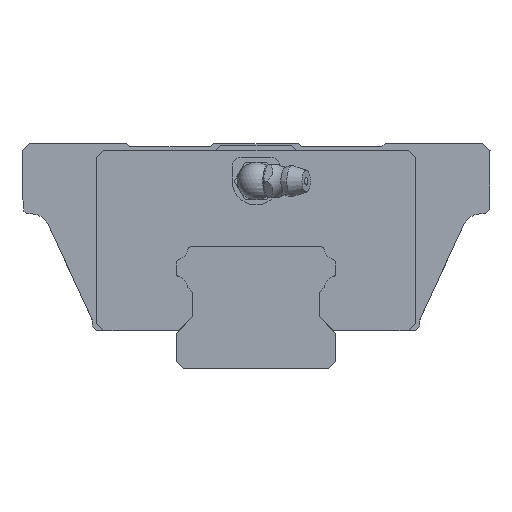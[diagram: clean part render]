
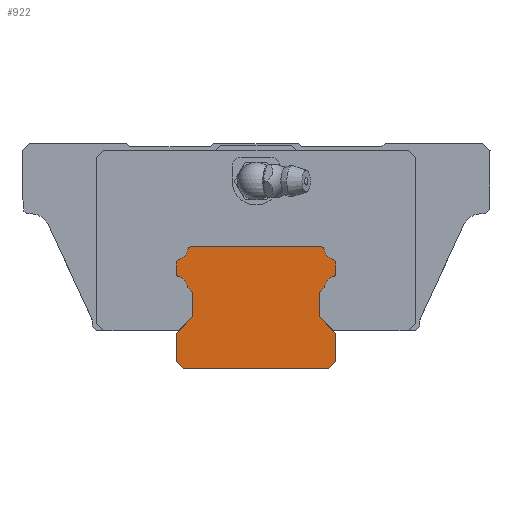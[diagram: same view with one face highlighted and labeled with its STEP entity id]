
A CAD part, front view. The second image highlights one B-rep face of the part: STEP entity #922.
In plain terms, the highlighted planar face has unit normal (0, -1, 0).
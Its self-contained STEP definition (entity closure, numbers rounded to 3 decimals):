
#554=PLANE('',#4600);
#699=CIRCLE('',#4558,0.8);
#701=CIRCLE('',#4561,2.6);
#703=CIRCLE('',#4574,2.6);
#705=CIRCLE('',#4577,0.8);
#707=CIRCLE('',#4581,0.8);
#709=CIRCLE('',#4584,2.6);
#711=CIRCLE('',#4587,0.8);
#713=CIRCLE('',#4590,0.8);
#715=CIRCLE('',#4593,2.6);
#717=CIRCLE('',#4596,0.8);
#922=ADVANCED_FACE('',(#1168),#554,.T.);
#1168=FACE_OUTER_BOUND('',#1437,.T.);
#1437=EDGE_LOOP('',(#2431,#2432,#2433,#2434,#2435,#2436,#2437,#2438,#2439,
#2440,#2441,#2442,#2443,#2444,#2445,#2446,#2447,#2448,#2449,#2450,#2451,
#2452,#2453,#2454));
#2431=ORIENTED_EDGE('',*,*,#3411,.T.);
#2432=ORIENTED_EDGE('',*,*,#3415,.T.);
#2433=ORIENTED_EDGE('',*,*,#3418,.T.);
#2434=ORIENTED_EDGE('',*,*,#3421,.T.);
#2435=ORIENTED_EDGE('',*,*,#3424,.T.);
#2436=ORIENTED_EDGE('',*,*,#3427,.T.);
#2437=ORIENTED_EDGE('',*,*,#3430,.T.);
#2438=ORIENTED_EDGE('',*,*,#3433,.T.);
#2439=ORIENTED_EDGE('',*,*,#3389,.T.);
#2440=ORIENTED_EDGE('',*,*,#3435,.T.);
#2441=ORIENTED_EDGE('',*,*,#3438,.T.);
#2442=ORIENTED_EDGE('',*,*,#3441,.T.);
#2443=ORIENTED_EDGE('',*,*,#3444,.T.);
#2444=ORIENTED_EDGE('',*,*,#3447,.T.);
#2445=ORIENTED_EDGE('',*,*,#3450,.T.);
#2446=ORIENTED_EDGE('',*,*,#3453,.T.);
#2447=ORIENTED_EDGE('',*,*,#3456,.T.);
#2448=ORIENTED_EDGE('',*,*,#3459,.T.);
#2449=ORIENTED_EDGE('',*,*,#3462,.T.);
#2450=ORIENTED_EDGE('',*,*,#3465,.T.);
#2451=ORIENTED_EDGE('',*,*,#3405,.T.);
#2452=ORIENTED_EDGE('',*,*,#3467,.T.);
#2453=ORIENTED_EDGE('',*,*,#3470,.T.);
#2454=ORIENTED_EDGE('',*,*,#3473,.T.);
#2889=VERTEX_POINT('',#6696);
#2890=VERTEX_POINT('',#6697);
#2905=VERTEX_POINT('',#6733);
#2906=VERTEX_POINT('',#6734);
#2911=VERTEX_POINT('',#6746);
#2912=VERTEX_POINT('',#6747);
#2915=VERTEX_POINT('',#6755);
#2917=VERTEX_POINT('',#6761);
#2919=VERTEX_POINT('',#6767);
#2921=VERTEX_POINT('',#6773);
#2923=VERTEX_POINT('',#6779);
#2925=VERTEX_POINT('',#6785);
#2927=VERTEX_POINT('',#6794);
#2929=VERTEX_POINT('',#6800);
#2931=VERTEX_POINT('',#6806);
#2933=VERTEX_POINT('',#6812);
#2935=VERTEX_POINT('',#6818);
#2937=VERTEX_POINT('',#6824);
#2939=VERTEX_POINT('',#6830);
#2941=VERTEX_POINT('',#6836);
#2943=VERTEX_POINT('',#6842);
#2945=VERTEX_POINT('',#6848);
#2947=VERTEX_POINT('',#6857);
#2949=VERTEX_POINT('',#6863);
#3389=EDGE_CURVE('',#2889,#2890,#3822,.T.);
#3405=EDGE_CURVE('',#2905,#2906,#3826,.T.);
#3411=EDGE_CURVE('',#2911,#2912,#3830,.T.);
#3415=EDGE_CURVE('',#2912,#2915,#699,.T.);
#3418=EDGE_CURVE('',#2915,#2917,#701,.T.);
#3421=EDGE_CURVE('',#2917,#2919,#3836,.T.);
#3424=EDGE_CURVE('',#2919,#2921,#3839,.T.);
#3427=EDGE_CURVE('',#2921,#2923,#3842,.T.);
#3430=EDGE_CURVE('',#2923,#2925,#3845,.T.);
#3433=EDGE_CURVE('',#2925,#2889,#3848,.T.);
#3435=EDGE_CURVE('',#2890,#2927,#3850,.T.);
#3438=EDGE_CURVE('',#2927,#2929,#3853,.T.);
#3441=EDGE_CURVE('',#2929,#2931,#3856,.T.);
#3444=EDGE_CURVE('',#2931,#2933,#3859,.T.);
#3447=EDGE_CURVE('',#2933,#2935,#3862,.T.);
#3450=EDGE_CURVE('',#2935,#2937,#703,.T.);
#3453=EDGE_CURVE('',#2937,#2939,#705,.T.);
#3456=EDGE_CURVE('',#2939,#2941,#3867,.T.);
#3459=EDGE_CURVE('',#2941,#2943,#707,.T.);
#3462=EDGE_CURVE('',#2943,#2945,#709,.T.);
#3465=EDGE_CURVE('',#2945,#2905,#711,.T.);
#3467=EDGE_CURVE('',#2906,#2947,#713,.T.);
#3470=EDGE_CURVE('',#2947,#2949,#715,.T.);
#3473=EDGE_CURVE('',#2949,#2911,#717,.T.);
#3822=LINE('',#6695,#4184);
#3826=LINE('',#6732,#4188);
#3830=LINE('',#6745,#4192);
#3836=LINE('',#6766,#4198);
#3839=LINE('',#6772,#4201);
#3842=LINE('',#6778,#4204);
#3845=LINE('',#6784,#4207);
#3848=LINE('',#6790,#4210);
#3850=LINE('',#6793,#4212);
#3853=LINE('',#6799,#4215);
#3856=LINE('',#6805,#4218);
#3859=LINE('',#6811,#4221);
#3862=LINE('',#6817,#4224);
#3867=LINE('',#6835,#4229);
#4184=VECTOR('',#5464,1.);
#4188=VECTOR('',#5502,1.);
#4192=VECTOR('',#5512,1.);
#4198=VECTOR('',#5532,1.);
#4201=VECTOR('',#5537,1.);
#4204=VECTOR('',#5542,1.);
#4207=VECTOR('',#5547,1.);
#4210=VECTOR('',#5552,1.);
#4212=VECTOR('',#5556,1.);
#4215=VECTOR('',#5561,1.);
#4218=VECTOR('',#5566,1.);
#4221=VECTOR('',#5571,1.);
#4224=VECTOR('',#5576,1.);
#4229=VECTOR('',#5595,1.);
#4558=AXIS2_PLACEMENT_3D('',#6754,#5518,#5519);
#4561=AXIS2_PLACEMENT_3D('',#6760,#5525,#5526);
#4574=AXIS2_PLACEMENT_3D('',#6823,#5581,#5582);
#4577=AXIS2_PLACEMENT_3D('',#6829,#5588,#5589);
#4581=AXIS2_PLACEMENT_3D('',#6841,#5600,#5601);
#4584=AXIS2_PLACEMENT_3D('',#6847,#5607,#5608);
#4587=AXIS2_PLACEMENT_3D('',#6853,#5614,#5615);
#4590=AXIS2_PLACEMENT_3D('',#6856,#5620,#5621);
#4593=AXIS2_PLACEMENT_3D('',#6862,#5627,#5628);
#4596=AXIS2_PLACEMENT_3D('',#6868,#5634,#5635);
#4600=AXIS2_PLACEMENT_3D('',#6872,#5642,#5643);
#5464=DIRECTION('',(1.,0.,0.));
#5502=DIRECTION('',(-1.,0.,0.));
#5512=DIRECTION('',(0.,0.,-1.));
#5518=DIRECTION('',(0.,-1.,0.));
#5519=DIRECTION('',(1.,0.,0.));
#5525=DIRECTION('',(0.,1.,0.));
#5526=DIRECTION('',(1.,0.,0.));
#5532=DIRECTION('',(0.707,0.,-0.707));
#5537=DIRECTION('',(0.,0.,-1.));
#5542=DIRECTION('',(-0.707,0.,-0.707));
#5547=DIRECTION('',(0.,0.,-1.));
#5552=DIRECTION('',(0.707,0.,-0.707));
#5556=DIRECTION('',(0.707,0.,0.707));
#5561=DIRECTION('',(0.,0.,1.));
#5566=DIRECTION('',(-0.707,0.,0.707));
#5571=DIRECTION('',(0.,0.,1.));
#5576=DIRECTION('',(0.707,0.,0.707));
#5581=DIRECTION('',(0.,1.,0.));
#5582=DIRECTION('',(1.,0.,0.));
#5588=DIRECTION('',(0.,-1.,0.));
#5589=DIRECTION('',(1.,0.,0.));
#5595=DIRECTION('',(0.,0.,1.));
#5600=DIRECTION('',(0.,-1.,0.));
#5601=DIRECTION('',(1.,0.,0.));
#5607=DIRECTION('',(0.,1.,0.));
#5608=DIRECTION('',(1.,0.,0.));
#5614=DIRECTION('',(0.,-1.,0.));
#5615=DIRECTION('',(1.,0.,0.));
#5620=DIRECTION('',(0.,-1.,0.));
#5621=DIRECTION('',(1.,0.,0.));
#5627=DIRECTION('',(0.,1.,0.));
#5628=DIRECTION('',(1.,0.,0.));
#5634=DIRECTION('',(0.,-1.,0.));
#5635=DIRECTION('',(1.,0.,0.));
#5642=DIRECTION('',(0.,-1.,0.));
#5643=DIRECTION('',(0.,0.,-1.));
#6695=CARTESIAN_POINT('',(-15.5,-95.,0.));
#6696=CARTESIAN_POINT('',(-15.5,-95.,0.));
#6697=CARTESIAN_POINT('',(15.5,-95.,0.));
#6732=CARTESIAN_POINT('',(13.785,-95.,26.));
#6733=CARTESIAN_POINT('',(13.785,-95.,26.));
#6734=CARTESIAN_POINT('',(-13.785,-95.,26.));
#6745=CARTESIAN_POINT('',(-17.,-95.,22.517));
#6746=CARTESIAN_POINT('',(-17.,-95.,22.517));
#6747=CARTESIAN_POINT('',(-17.,-95.,20.283));
#6754=CARTESIAN_POINT('',(-16.2,-95.,20.283));
#6755=CARTESIAN_POINT('',(-16.42,-95.,19.514));
#6760=CARTESIAN_POINT('',(-17.134,-95.,17.014));
#6761=CARTESIAN_POINT('',(-14.545,-95.,17.245));
#6766=CARTESIAN_POINT('',(-14.545,-95.,17.245));
#6767=CARTESIAN_POINT('',(-13.5,-95.,16.2));
#6772=CARTESIAN_POINT('',(-13.5,-95.,16.2));
#6773=CARTESIAN_POINT('',(-13.5,-95.,11.));
#6778=CARTESIAN_POINT('',(-13.5,-95.,11.));
#6779=CARTESIAN_POINT('',(-17.,-95.,7.5));
#6784=CARTESIAN_POINT('',(-17.,-95.,7.5));
#6785=CARTESIAN_POINT('',(-17.,-95.,1.5));
#6790=CARTESIAN_POINT('',(-17.,-95.,1.5));
#6793=CARTESIAN_POINT('',(15.5,-95.,0.));
#6794=CARTESIAN_POINT('',(17.,-95.,1.5));
#6799=CARTESIAN_POINT('',(17.,-95.,1.5));
#6800=CARTESIAN_POINT('',(17.,-95.,7.5));
#6805=CARTESIAN_POINT('',(17.,-95.,7.5));
#6806=CARTESIAN_POINT('',(13.5,-95.,11.));
#6811=CARTESIAN_POINT('',(13.5,-95.,11.));
#6812=CARTESIAN_POINT('',(13.5,-95.,16.2));
#6817=CARTESIAN_POINT('',(13.5,-95.,16.2));
#6818=CARTESIAN_POINT('',(14.545,-95.,17.245));
#6823=CARTESIAN_POINT('',(17.134,-95.,17.014));
#6824=CARTESIAN_POINT('',(16.42,-95.,19.514));
#6829=CARTESIAN_POINT('',(16.2,-95.,20.283));
#6830=CARTESIAN_POINT('',(17.,-95.,20.283));
#6835=CARTESIAN_POINT('',(17.,-95.,20.283));
#6836=CARTESIAN_POINT('',(17.,-95.,22.517));
#6841=CARTESIAN_POINT('',(16.2,-95.,22.517));
#6842=CARTESIAN_POINT('',(16.42,-95.,23.286));
#6847=CARTESIAN_POINT('',(17.134,-95.,25.786));
#6848=CARTESIAN_POINT('',(14.573,-95.,25.338));
#6853=CARTESIAN_POINT('',(13.785,-95.,25.2));
#6856=CARTESIAN_POINT('',(-13.785,-95.,25.2));
#6857=CARTESIAN_POINT('',(-14.573,-95.,25.338));
#6862=CARTESIAN_POINT('',(-17.134,-95.,25.786));
#6863=CARTESIAN_POINT('',(-16.42,-95.,23.286));
#6868=CARTESIAN_POINT('',(-16.2,-95.,22.517));
#6872=CARTESIAN_POINT('',(-16.2,-95.,20.283));
